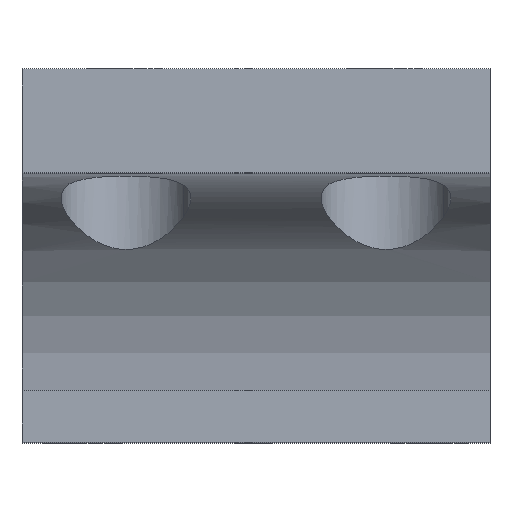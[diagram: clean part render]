
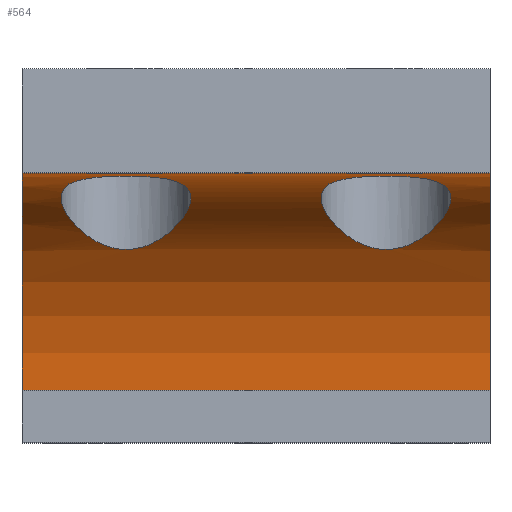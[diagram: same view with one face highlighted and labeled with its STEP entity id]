
A CAD part, top view. The second image highlights one B-rep face of the part: STEP entity #564.
In plain terms, the highlighted cylindrical face has radius 25 mm (diameter 50 mm), a partial arc.
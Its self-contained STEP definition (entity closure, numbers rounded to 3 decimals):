
#84=CARTESIAN_POINT('Vertex',(27.,13.,50.)) ;
#87=CARTESIAN_POINT('Axis2P3D Location',(27.,-12.,50.)) ;
#91=CARTESIAN_POINT('Vertex',(27.,-12.,25.)) ;
#352=CARTESIAN_POINT('Vertex',(-27.,13.,50.)) ;
#355=CARTESIAN_POINT('Line Origine',(0.,13.,50.)) ;
#439=CARTESIAN_POINT('Axis2P3D Location',(0.,-12.,50.)) ;
#444=CARTESIAN_POINT('Axis2P3D Location',(-27.,-12.,50.)) ;
#448=CARTESIAN_POINT('Vertex',(-27.,-12.,25.)) ;
#451=CARTESIAN_POINT('Line Origine',(0.,-12.,25.)) ;
#463=CARTESIAN_POINT('Control Point',(-21.582,11.718,42.096)) ;
#464=CARTESIAN_POINT('Control Point',(-22.126,11.386,41.1)) ;
#465=CARTESIAN_POINT('Control Point',(-22.47,10.968,40.022)) ;
#466=CARTESIAN_POINT('Control Point',(-22.598,10.465,38.931)) ;
#467=CARTESIAN_POINT('Control Point',(-22.493,9.385,36.933)) ;
#468=CARTESIAN_POINT('Control Point',(-21.801,8.154,35.155)) ;
#469=CARTESIAN_POINT('Control Point',(-21.359,7.554,34.38)) ;
#470=CARTESIAN_POINT('Control Point',(-20.551,6.666,33.339)) ;
#471=CARTESIAN_POINT('Control Point',(-19.511,5.844,32.484)) ;
#472=CARTESIAN_POINT('Control Point',(-19.15,5.589,32.229)) ;
#473=CARTESIAN_POINT('Control Point',(-18.447,5.151,31.806)) ;
#474=CARTESIAN_POINT('Control Point',(-17.661,4.786,31.472)) ;
#475=CARTESIAN_POINT('Control Point',(-17.289,4.64,31.341)) ;
#476=CARTESIAN_POINT('Control Point',(-16.202,4.297,31.04)) ;
#477=CARTESIAN_POINT('Control Point',(-15.021,4.179,30.941)) ;
#478=CARTESIAN_POINT('Control Point',(-14.246,4.227,30.981)) ;
#479=CARTESIAN_POINT('Control Point',(-12.549,4.589,31.289)) ;
#480=CARTESIAN_POINT('Control Point',(-11.112,5.361,31.995)) ;
#481=CARTESIAN_POINT('Control Point',(-10.405,5.862,32.484)) ;
#482=CARTESIAN_POINT('Control Point',(-9.559,6.586,33.253)) ;
#483=CARTESIAN_POINT('Control Point',(-8.884,7.332,34.144)) ;
#484=CARTESIAN_POINT('Control Point',(-8.716,7.531,34.39)) ;
#485=CARTESIAN_POINT('Control Point',(-8.561,7.73,34.643)) ;
#486=CARTESIAN_POINT('Control Point',(-8.418,7.928,34.904)) ;
#487=CARTESIAN_POINT('Vertex',(-21.582,11.718,42.096)) ;
#489=CARTESIAN_POINT('Vertex',(-8.418,7.928,34.904)) ;
#493=CARTESIAN_POINT('Control Point',(-8.418,7.928,34.904)) ;
#494=CARTESIAN_POINT('Control Point',(-7.916,8.624,35.823)) ;
#495=CARTESIAN_POINT('Control Point',(-7.571,9.308,36.836)) ;
#496=CARTESIAN_POINT('Control Point',(-7.396,9.95,37.928)) ;
#497=CARTESIAN_POINT('Control Point',(-7.471,11.124,40.289)) ;
#498=CARTESIAN_POINT('Control Point',(-8.511,11.923,42.585)) ;
#499=CARTESIAN_POINT('Control Point',(-9.322,12.212,43.667)) ;
#500=CARTESIAN_POINT('Control Point',(-11.387,12.595,45.404)) ;
#501=CARTESIAN_POINT('Control Point',(-14.014,12.696,46.116)) ;
#502=CARTESIAN_POINT('Control Point',(-15.384,12.703,46.17)) ;
#503=CARTESIAN_POINT('Control Point',(-17.745,12.645,45.726)) ;
#504=CARTESIAN_POINT('Control Point',(-19.736,12.387,44.449)) ;
#505=CARTESIAN_POINT('Control Point',(-20.495,12.227,43.753)) ;
#506=CARTESIAN_POINT('Control Point',(-21.113,12.004,42.955)) ;
#507=CARTESIAN_POINT('Control Point',(-21.582,11.718,42.096)) ;
#514=CARTESIAN_POINT('Control Point',(8.418,11.718,42.096)) ;
#515=CARTESIAN_POINT('Control Point',(7.874,11.386,41.1)) ;
#516=CARTESIAN_POINT('Control Point',(7.53,10.968,40.022)) ;
#517=CARTESIAN_POINT('Control Point',(7.402,10.465,38.931)) ;
#518=CARTESIAN_POINT('Control Point',(7.507,9.385,36.933)) ;
#519=CARTESIAN_POINT('Control Point',(8.199,8.154,35.155)) ;
#520=CARTESIAN_POINT('Control Point',(8.641,7.554,34.38)) ;
#521=CARTESIAN_POINT('Control Point',(9.449,6.666,33.339)) ;
#522=CARTESIAN_POINT('Control Point',(10.489,5.844,32.484)) ;
#523=CARTESIAN_POINT('Control Point',(10.85,5.589,32.229)) ;
#524=CARTESIAN_POINT('Control Point',(11.553,5.151,31.806)) ;
#525=CARTESIAN_POINT('Control Point',(12.339,4.786,31.472)) ;
#526=CARTESIAN_POINT('Control Point',(12.711,4.64,31.341)) ;
#527=CARTESIAN_POINT('Control Point',(13.798,4.297,31.04)) ;
#528=CARTESIAN_POINT('Control Point',(14.979,4.179,30.941)) ;
#529=CARTESIAN_POINT('Control Point',(15.754,4.227,30.981)) ;
#530=CARTESIAN_POINT('Control Point',(17.451,4.589,31.289)) ;
#531=CARTESIAN_POINT('Control Point',(18.888,5.361,31.995)) ;
#532=CARTESIAN_POINT('Control Point',(19.595,5.862,32.484)) ;
#533=CARTESIAN_POINT('Control Point',(20.441,6.586,33.253)) ;
#534=CARTESIAN_POINT('Control Point',(21.116,7.332,34.144)) ;
#535=CARTESIAN_POINT('Control Point',(21.284,7.531,34.39)) ;
#536=CARTESIAN_POINT('Control Point',(21.439,7.73,34.643)) ;
#537=CARTESIAN_POINT('Control Point',(21.582,7.928,34.904)) ;
#538=CARTESIAN_POINT('Vertex',(8.418,11.718,42.096)) ;
#540=CARTESIAN_POINT('Vertex',(21.582,7.928,34.904)) ;
#544=CARTESIAN_POINT('Control Point',(21.582,7.928,34.904)) ;
#545=CARTESIAN_POINT('Control Point',(22.084,8.624,35.823)) ;
#546=CARTESIAN_POINT('Control Point',(22.429,9.308,36.836)) ;
#547=CARTESIAN_POINT('Control Point',(22.604,9.95,37.928)) ;
#548=CARTESIAN_POINT('Control Point',(22.529,11.124,40.289)) ;
#549=CARTESIAN_POINT('Control Point',(21.489,11.923,42.585)) ;
#550=CARTESIAN_POINT('Control Point',(20.678,12.212,43.667)) ;
#551=CARTESIAN_POINT('Control Point',(18.613,12.595,45.404)) ;
#552=CARTESIAN_POINT('Control Point',(15.986,12.696,46.116)) ;
#553=CARTESIAN_POINT('Control Point',(14.616,12.703,46.17)) ;
#554=CARTESIAN_POINT('Control Point',(12.255,12.645,45.726)) ;
#555=CARTESIAN_POINT('Control Point',(10.264,12.387,44.449)) ;
#556=CARTESIAN_POINT('Control Point',(9.505,12.227,43.753)) ;
#557=CARTESIAN_POINT('Control Point',(8.887,12.004,42.955)) ;
#558=CARTESIAN_POINT('Control Point',(8.418,11.718,42.096)) ;
#88=DIRECTION('Axis2P3D Direction',(1.,0.,0.)) ;
#356=DIRECTION('Vector Direction',(1.,0.,0.)) ;
#440=DIRECTION('Axis2P3D Direction',(1.,0.,0.)) ;
#441=DIRECTION('Axis2P3D XDirection',(-0.,0.,-1.)) ;
#445=DIRECTION('Axis2P3D Direction',(1.,0.,0.)) ;
#452=DIRECTION('Vector Direction',(1.,0.,0.)) ;
#89=AXIS2_PLACEMENT_3D('Circle Axis2P3D',#87,#88,$) ;
#442=AXIS2_PLACEMENT_3D('Cylinder Axis2P3D',#439,#440,#441) ;
#446=AXIS2_PLACEMENT_3D('Circle Axis2P3D',#444,#445,$) ;
#457=ORIENTED_EDGE('',*,*,#359,.F.) ;
#458=ORIENTED_EDGE('',*,*,#450,.T.) ;
#459=ORIENTED_EDGE('',*,*,#455,.T.) ;
#460=ORIENTED_EDGE('',*,*,#93,.F.) ;
#510=ORIENTED_EDGE('',*,*,#491,.F.) ;
#511=ORIENTED_EDGE('',*,*,#508,.F.) ;
#561=ORIENTED_EDGE('',*,*,#542,.F.) ;
#562=ORIENTED_EDGE('',*,*,#559,.F.) ;
#512=FACE_BOUND('',#509,.T.) ;
#563=FACE_BOUND('',#560,.T.) ;
#357=VECTOR('Line Direction',#356,1.) ;
#453=VECTOR('Line Direction',#452,1.) ;
#564=ADVANCED_FACE('PartBody',(#461,#512,#563),#443,.F.) ;
#462=B_SPLINE_CURVE_WITH_KNOTS('',5,(#463,#464,#465,#466,#467,#468,#469,#470,#471,#472,#473,#474,#475,#476,#477,#478,#479,#480,#481,#482,#483,#484,#485,#486),.UNSPECIFIED.,.F.,.U.,(6,3,3,3,3,3,3,6),(0.,8.363,15.903,19.498,22.456,27.796,34.77,37.296),.UNSPECIFIED.) ;
#492=B_SPLINE_CURVE_WITH_KNOTS('',5,(#493,#494,#495,#496,#497,#498,#499,#500,#501,#502,#503,#504,#505,#506,#507),.UNSPECIFIED.,.F.,.U.,(6,3,3,3,6),(0.,8.887,18.31,27.678,34.888),.UNSPECIFIED.) ;
#513=B_SPLINE_CURVE_WITH_KNOTS('',5,(#514,#515,#516,#517,#518,#519,#520,#521,#522,#523,#524,#525,#526,#527,#528,#529,#530,#531,#532,#533,#534,#535,#536,#537),.UNSPECIFIED.,.F.,.U.,(6,3,3,3,3,3,3,6),(0.,8.363,15.903,19.498,22.456,27.796,34.77,37.296),.UNSPECIFIED.) ;
#543=B_SPLINE_CURVE_WITH_KNOTS('',5,(#544,#545,#546,#547,#548,#549,#550,#551,#552,#553,#554,#555,#556,#557,#558),.UNSPECIFIED.,.F.,.U.,(6,3,3,3,6),(0.,8.887,18.31,27.678,34.888),.UNSPECIFIED.) ;
#90=CIRCLE('generated circle',#89,25.) ;
#447=CIRCLE('generated circle',#446,25.) ;
#443=CYLINDRICAL_SURFACE('generated cylinder',#442,25.) ;
#93=EDGE_CURVE('',#85,#92,#90,.F.) ;
#359=EDGE_CURVE('',#353,#85,#358,.T.) ;
#450=EDGE_CURVE('',#353,#449,#447,.F.) ;
#455=EDGE_CURVE('',#449,#92,#454,.T.) ;
#491=EDGE_CURVE('',#488,#490,#462,.T.) ;
#508=EDGE_CURVE('',#490,#488,#492,.T.) ;
#542=EDGE_CURVE('',#539,#541,#513,.T.) ;
#559=EDGE_CURVE('',#541,#539,#543,.T.) ;
#456=EDGE_LOOP('',(#457,#458,#459,#460)) ;
#509=EDGE_LOOP('',(#510,#511)) ;
#560=EDGE_LOOP('',(#561,#562)) ;
#461=FACE_OUTER_BOUND('',#456,.T.) ;
#358=LINE('Line',#355,#357) ;
#454=LINE('Line',#451,#453) ;
#85=VERTEX_POINT('',#84) ;
#92=VERTEX_POINT('',#91) ;
#353=VERTEX_POINT('',#352) ;
#449=VERTEX_POINT('',#448) ;
#488=VERTEX_POINT('',#487) ;
#490=VERTEX_POINT('',#489) ;
#539=VERTEX_POINT('',#538) ;
#541=VERTEX_POINT('',#540) ;
